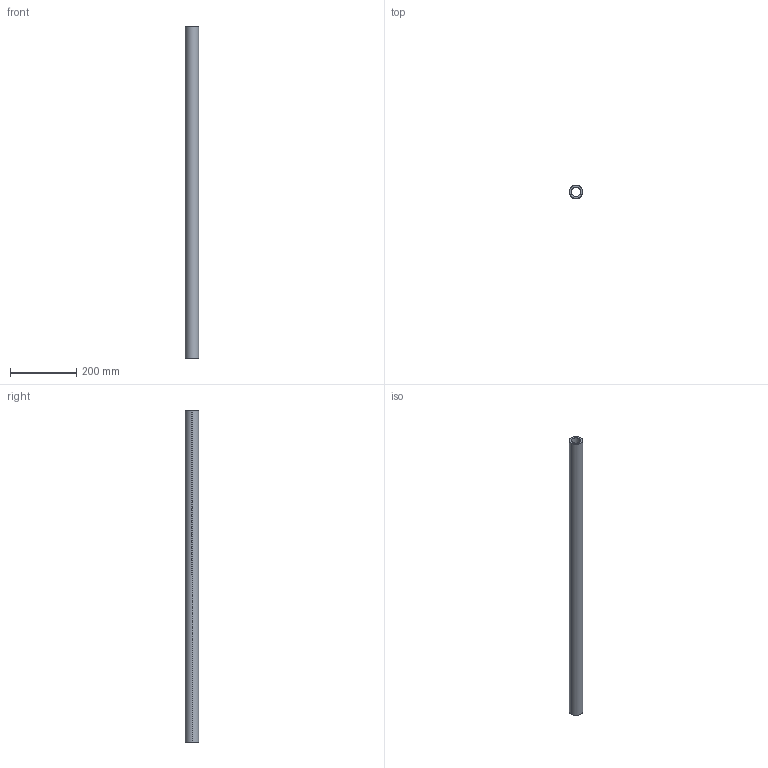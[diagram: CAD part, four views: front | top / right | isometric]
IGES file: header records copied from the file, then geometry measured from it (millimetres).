
Start section: SolidWorks IGES file using analytic representation for surfaces
Global section: file name: C:\Users\IanO\Desktop\L1771_v2\L1771.40_v2\L1771.40_v2_20230705_IGES\L1771.40-1000.igs; native system: SolidWorks 2019; preprocessor: SolidWorks 2019; author: IanO; date: 230705.160325; units: millimetre
Bounding box: 40 x 40 x 1000 mm (x, y, z)
Surface area: 214910.1 mm2 (no closed solid volume)
Topology: 0 solids, 0 shells, 6 faces, 272 edges, 272 vertices
Faces by surface type: revolution 4, bspline 2
